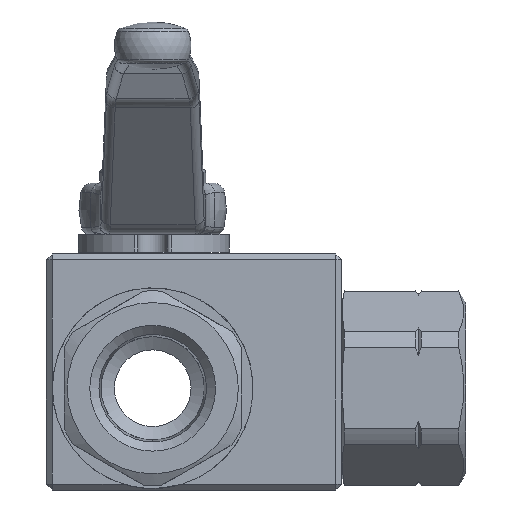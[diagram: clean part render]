
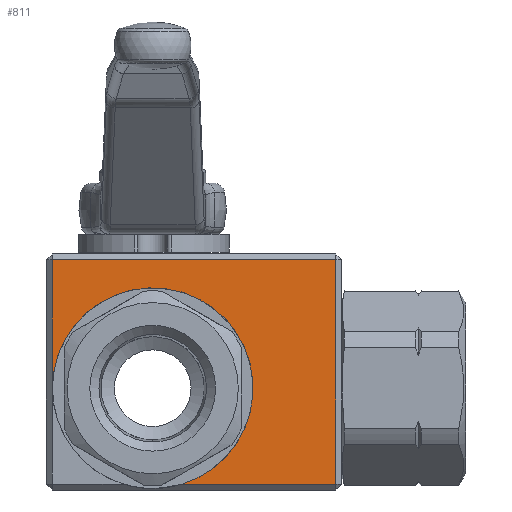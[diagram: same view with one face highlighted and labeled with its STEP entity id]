
A CAD part, front view. The second image highlights one B-rep face of the part: STEP entity #811.
In plain terms, the highlighted planar face has unit normal (0, -1, 0).
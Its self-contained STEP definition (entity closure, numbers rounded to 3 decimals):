
#811 = ADVANCED_FACE( '', ( #1799 ), #1800, .F. );
#1799 = FACE_OUTER_BOUND( '', #3365, .T. );
#1800 = PLANE( '', #3366 );
#3365 = EDGE_LOOP( '', ( #5931, #5932, #5933, #5934, #5935 ) );
#3366 = AXIS2_PLACEMENT_3D( '', #5936, #5937, #5938 );
#5931 = ORIENTED_EDGE( '', *, *, #8939, .T. );
#5932 = ORIENTED_EDGE( '', *, *, #8940, .T. );
#5933 = ORIENTED_EDGE( '', *, *, #8941, .T. );
#5934 = ORIENTED_EDGE( '', *, *, #8942, .T. );
#5935 = ORIENTED_EDGE( '', *, *, #8943, .T. );
#5936 = CARTESIAN_POINT( '', ( -18., -25., 22.75 ) );
#5937 = DIRECTION( '', ( 0., 1., 0. ) );
#5938 = DIRECTION( '', ( 0., 0., 1. ) );
#8939 = EDGE_CURVE( '', #10719, #10720, #10721, .T. );
#8940 = EDGE_CURVE( '', #10720, #10387, #10722, .T. );
#8941 = EDGE_CURVE( '', #10387, #10723, #10724, .T. );
#8942 = EDGE_CURVE( '', #10723, #10725, #10726, .T. );
#8943 = EDGE_CURVE( '', #10725, #10719, #10727, .T. );
#10387 = VERTEX_POINT( '', #12869 );
#10719 = VERTEX_POINT( '', #13685 );
#10720 = VERTEX_POINT( '', #13686 );
#10721 = CIRCLE( '', #13687, 17. );
#10722 = LINE( '', #13688, #13689 );
#10723 = VERTEX_POINT( '', #13690 );
#10724 = LINE( '', #13691, #13692 );
#10725 = VERTEX_POINT( '', #13693 );
#10726 = LINE( '', #13694, #13695 );
#10727 = LINE( '', #13696, #13697 );
#12869 = CARTESIAN_POINT( '', ( 31., -25., -16.25 ) );
#13685 = CARTESIAN_POINT( '', ( -17., -25., 0. ) );
#13686 = CARTESIAN_POINT( '', ( 4.994, -25., -16.25 ) );
#13687 = AXIS2_PLACEMENT_3D( '', #16767, #16768, #16769 );
#13688 = CARTESIAN_POINT( '', ( -18., -25., -16.25 ) );
#13689 = VECTOR( '', #16770, 1000. );
#13690 = CARTESIAN_POINT( '', ( 31., -25., 21.75 ) );
#13691 = CARTESIAN_POINT( '', ( 31., -25., 22.75 ) );
#13692 = VECTOR( '', #16771, 1000. );
#13693 = CARTESIAN_POINT( '', ( -17., -25., 21.75 ) );
#13694 = CARTESIAN_POINT( '', ( -18., -25., 21.75 ) );
#13695 = VECTOR( '', #16772, 1000. );
#13696 = CARTESIAN_POINT( '', ( -17., -25., 22.75 ) );
#13697 = VECTOR( '', #16773, 1000. );
#16767 = CARTESIAN_POINT( '', ( 0., -25., 0. ) );
#16768 = DIRECTION( '', ( 0., 1., 0. ) );
#16769 = DIRECTION( '', ( 1., 0., 0. ) );
#16770 = DIRECTION( '', ( 1., 0., 0. ) );
#16771 = DIRECTION( '', ( 0., 0., 1. ) );
#16772 = DIRECTION( '', ( -1., 0., 0. ) );
#16773 = DIRECTION( '', ( 0., 0., -1. ) );
